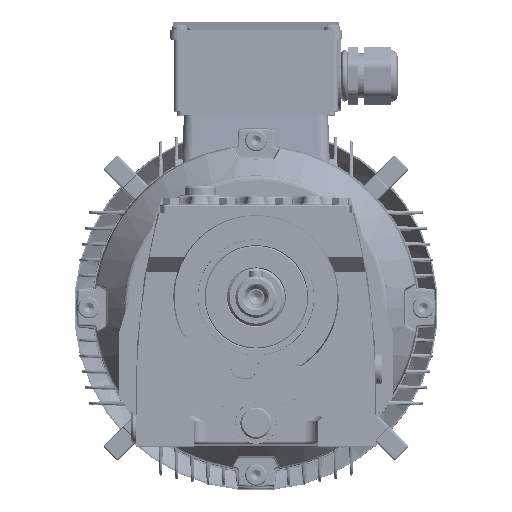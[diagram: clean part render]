
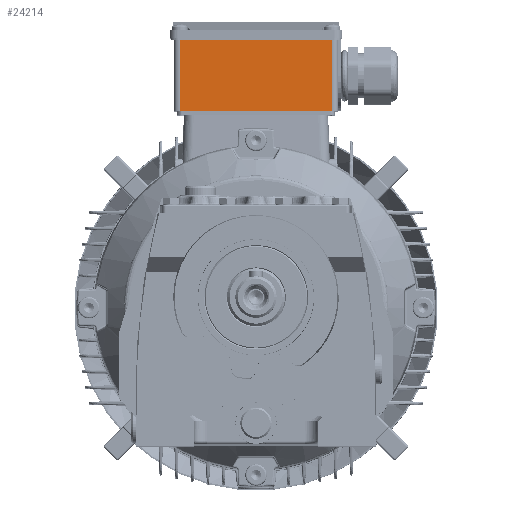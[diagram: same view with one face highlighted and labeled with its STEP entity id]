
A CAD part, top view. The second image highlights one B-rep face of the part: STEP entity #24214.
In plain terms, the highlighted planar face has unit normal (0, 0, 1) as drawn and (-1, 0, 0) by its records, which use the part's own axes.
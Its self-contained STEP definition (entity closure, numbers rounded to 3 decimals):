
#12503 = EDGE_CURVE ( 'NONE', #90904, #38263, #222896, .T. ) ;
#12504 = EDGE_CURVE ( 'NONE', #38356, #90937, #222853, .T. ) ;
#12563 = EDGE_CURVE ( 'NONE', #90904, #90937, #223091, .T. ) ;
#16845 = EDGE_CURVE ( 'NONE', #38356, #38263, #132784, .T. ) ;
#24214 = ADVANCED_FACE ( 'NONE', ( #106922 ), #139109, .F. ) ;
#28813 = CARTESIAN_POINT ( 'NONE',  ( -49.488, 43., -46.512 ) ) ;
#28877 = DIRECTION ( 'NONE',  ( 0., 0., -1. ) ) ;
#28891 = CARTESIAN_POINT ( 'NONE',  ( -49.488, 0., -46.512 ) ) ;
#29121 = DIRECTION ( 'NONE',  ( 0., 0., 1. ) ) ;
#29950 = CARTESIAN_POINT ( 'NONE',  ( -49.488, 47., 46.126 ) ) ;
#29972 = DIRECTION ( 'NONE',  ( 0., -1., 0. ) ) ;
#38263 = VERTEX_POINT ( 'NONE', #46209 ) ;
#38356 = VERTEX_POINT ( 'NONE', #46477 ) ;
#46209 = CARTESIAN_POINT ( 'NONE',  ( -49.488, 43., -46.126 ) ) ;
#46477 = CARTESIAN_POINT ( 'NONE',  ( -49.488, 0., -46.126 ) ) ;
#90904 = VERTEX_POINT ( 'NONE', #211446 ) ;
#90937 = VERTEX_POINT ( 'NONE', #211527 ) ;
#91953 = EDGE_LOOP ( 'NONE', ( #186219, #186130, #186002, #186224 ) ) ;
#106922 = FACE_OUTER_BOUND ( 'NONE', #91953, .T. ) ;
#132745 = VECTOR ( 'NONE', #145013, 1000. ) ;
#132784 = LINE ( 'NONE', #145027, #132745 ) ;
#139109 = PLANE ( 'NONE',  #257232 ) ;
#139152 = DIRECTION ( 'NONE',  ( 0., 0., -1. ) ) ;
#139172 = CARTESIAN_POINT ( 'NONE',  ( -49.488, 47., 46.126 ) ) ;
#139207 = DIRECTION ( 'NONE',  ( 1., 0., 0. ) ) ;
#145013 = DIRECTION ( 'NONE',  ( 0., 1., 0. ) ) ;
#145027 = CARTESIAN_POINT ( 'NONE',  ( -49.488, 47., -46.126 ) ) ;
#186002 = ORIENTED_EDGE ( 'NONE', *, *, #12563, .F. ) ;
#186130 = ORIENTED_EDGE ( 'NONE', *, *, #12504, .T. ) ;
#186219 = ORIENTED_EDGE ( 'NONE', *, *, #16845, .F. ) ;
#186224 = ORIENTED_EDGE ( 'NONE', *, *, #12503, .T. ) ;
#211446 = CARTESIAN_POINT ( 'NONE',  ( -49.488, 43., 46.126 ) ) ;
#211527 = CARTESIAN_POINT ( 'NONE',  ( -49.488, 0., 46.126 ) ) ;
#222853 = LINE ( 'NONE', #28891, #222900 ) ;
#222896 = LINE ( 'NONE', #28813, #222899 ) ;
#222899 = VECTOR ( 'NONE', #28877, 1000. ) ;
#222900 = VECTOR ( 'NONE', #29121, 1000. ) ;
#223060 = VECTOR ( 'NONE', #29972, 1000. ) ;
#223091 = LINE ( 'NONE', #29950, #223060 ) ;
#257232 = AXIS2_PLACEMENT_3D ( 'NONE', #139172, #139207, #139152 ) ;
